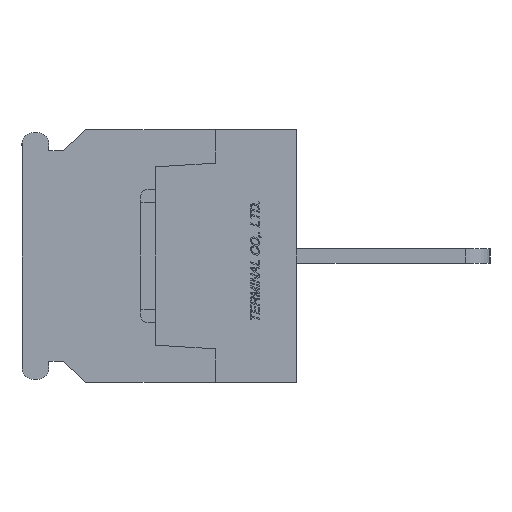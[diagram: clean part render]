
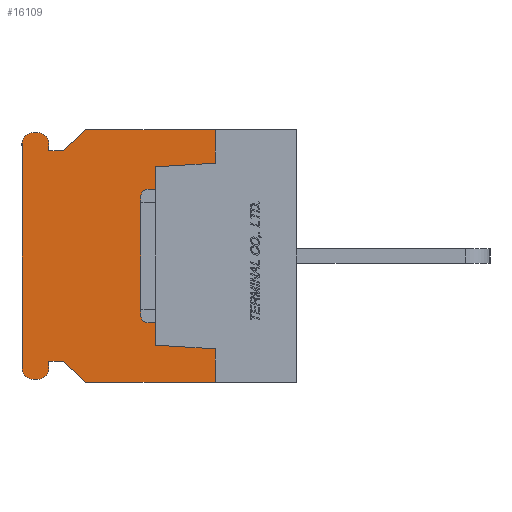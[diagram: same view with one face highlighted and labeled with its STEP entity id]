
A CAD part, left-side view. The second image highlights one B-rep face of the part: STEP entity #16109.
In plain terms, the highlighted planar face has unit normal (-1, 0, 0).
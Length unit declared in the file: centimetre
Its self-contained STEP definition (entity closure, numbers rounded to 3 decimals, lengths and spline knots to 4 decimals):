
#975=CIRCLE('',#27758,0.075);
#976=CIRCLE('',#27759,0.075);
#977=CIRCLE('',#27760,0.075);
#978=CIRCLE('',#27761,0.075);
#1673=VERTEX_POINT('',#22978);
#1674=VERTEX_POINT('',#22980);
#1720=VERTEX_POINT('',#23101);
#1721=VERTEX_POINT('',#23103);
#1897=VERTEX_POINT('',#23672);
#1898=VERTEX_POINT('',#23674);
#1899=VERTEX_POINT('',#23676);
#1900=VERTEX_POINT('',#23678);
#1901=VERTEX_POINT('',#23680);
#1902=VERTEX_POINT('',#23682);
#1903=VERTEX_POINT('',#23684);
#1904=VERTEX_POINT('',#23686);
#1905=VERTEX_POINT('',#23688);
#1906=VERTEX_POINT('',#23690);
#1907=VERTEX_POINT('',#23692);
#1908=VERTEX_POINT('',#23694);
#1909=VERTEX_POINT('',#23696);
#1910=VERTEX_POINT('',#23699);
#1911=VERTEX_POINT('',#23701);
#1912=VERTEX_POINT('',#23703);
#3231=VECTOR('',#18926,1.);
#3289=VECTOR('',#19010,1.);
#3532=VECTOR('',#19465,1.);
#3533=VECTOR('',#19466,1.);
#3534=VECTOR('',#19467,1.);
#3535=VECTOR('',#19468,1.);
#3536=VECTOR('',#19471,1.);
#3537=VECTOR('',#19474,1.);
#3538=VECTOR('',#19477,1.);
#3539=VECTOR('',#19480,1.);
#3540=VECTOR('',#19481,1.);
#3541=VECTOR('',#19482,1.);
#3542=VECTOR('',#19483,1.);
#3543=VECTOR('',#19484,1.);
#3544=VECTOR('',#19485,1.);
#3545=VECTOR('',#19486,1.);
#5023=LINE('',#22979,#3231);
#5081=LINE('',#23102,#3289);
#5324=LINE('',#23671,#3532);
#5325=LINE('',#23673,#3533);
#5326=LINE('',#23675,#3534);
#5327=LINE('',#23677,#3535);
#5328=LINE('',#23681,#3536);
#5329=LINE('',#23685,#3537);
#5330=LINE('',#23689,#3538);
#5331=LINE('',#23693,#3539);
#5332=LINE('',#23695,#3540);
#5333=LINE('',#23697,#3541);
#5334=LINE('',#23698,#3542);
#5335=LINE('',#23700,#3543);
#5336=LINE('',#23702,#3544);
#5337=LINE('',#23704,#3545);
#7187=EDGE_CURVE('',#1673,#1674,#5023,.T.);
#7249=EDGE_CURVE('',#1720,#1721,#5081,.T.);
#7534=EDGE_CURVE('',#1897,#1721,#5324,.T.);
#7535=EDGE_CURVE('',#1898,#1720,#5325,.T.);
#7536=EDGE_CURVE('',#1899,#1898,#5326,.T.);
#7537=EDGE_CURVE('',#1900,#1899,#5327,.T.);
#7538=EDGE_CURVE('',#1901,#1900,#975,.T.);
#7539=EDGE_CURVE('',#1902,#1901,#5328,.T.);
#7540=EDGE_CURVE('',#1903,#1902,#976,.T.);
#7541=EDGE_CURVE('',#1904,#1903,#5329,.T.);
#7542=EDGE_CURVE('',#1905,#1904,#977,.T.);
#7543=EDGE_CURVE('',#1906,#1905,#5330,.T.);
#7544=EDGE_CURVE('',#1907,#1906,#978,.T.);
#7545=EDGE_CURVE('',#1908,#1907,#5331,.T.);
#7546=EDGE_CURVE('',#1909,#1908,#5332,.T.);
#7547=EDGE_CURVE('',#1674,#1909,#5333,.T.);
#7548=EDGE_CURVE('',#1673,#1910,#5334,.T.);
#7549=EDGE_CURVE('',#1910,#1911,#5335,.T.);
#7550=EDGE_CURVE('',#1911,#1912,#5336,.T.);
#7551=EDGE_CURVE('',#1912,#1897,#5337,.T.);
#11206=ORIENTED_EDGE('',*,*,#7534,.T.);
#11207=ORIENTED_EDGE('',*,*,#7249,.F.);
#11208=ORIENTED_EDGE('',*,*,#7535,.F.);
#11209=ORIENTED_EDGE('',*,*,#7536,.F.);
#11210=ORIENTED_EDGE('',*,*,#7537,.F.);
#11211=ORIENTED_EDGE('',*,*,#7538,.F.);
#11212=ORIENTED_EDGE('',*,*,#7539,.F.);
#11213=ORIENTED_EDGE('',*,*,#7540,.F.);
#11214=ORIENTED_EDGE('',*,*,#7541,.F.);
#11215=ORIENTED_EDGE('',*,*,#7542,.F.);
#11216=ORIENTED_EDGE('',*,*,#7543,.F.);
#11217=ORIENTED_EDGE('',*,*,#7544,.F.);
#11218=ORIENTED_EDGE('',*,*,#7545,.F.);
#11219=ORIENTED_EDGE('',*,*,#7546,.F.);
#11220=ORIENTED_EDGE('',*,*,#7547,.F.);
#11221=ORIENTED_EDGE('',*,*,#7187,.F.);
#11222=ORIENTED_EDGE('',*,*,#7548,.T.);
#11223=ORIENTED_EDGE('',*,*,#7549,.T.);
#11224=ORIENTED_EDGE('',*,*,#7550,.T.);
#11225=ORIENTED_EDGE('',*,*,#7551,.T.);
#14108=EDGE_LOOP('',(#11206,#11207,#11208,#11209,#11210,#11211,#11212,#11213,
#11214,#11215,#11216,#11217,#11218,#11219,#11220,#11221,#11222,#11223,#11224,
#11225));
#15152=FACE_BOUND('',#14108,.T.);
#16109=ADVANCED_FACE('',(#15152),#16906,.F.);
#16906=PLANE('',#27757);
#18926=DIRECTION('',(0.,1.,0.));
#19010=DIRECTION('',(0.,-1.,0.));
#19464=DIRECTION('',(1.,0.,0.));
#19465=DIRECTION('',(0.,0.,1.));
#19466=DIRECTION('',(0.,-0.731,0.682));
#19467=DIRECTION('',(0.,-1.,0.));
#19468=DIRECTION('',(0.,0.,-1.));
#19469=DIRECTION('',(1.,0.,0.));
#19470=DIRECTION('',(0.,0.,-0.075));
#19471=DIRECTION('',(0.,-1.,0.));
#19472=DIRECTION('',(1.,0.,0.));
#19473=DIRECTION('',(0.,0.,-0.075));
#19474=DIRECTION('',(0.,0.,1.));
#19475=DIRECTION('',(1.,0.,0.));
#19476=DIRECTION('',(0.,0.,-0.075));
#19477=DIRECTION('',(0.,1.,0.));
#19478=DIRECTION('',(1.,0.,0.));
#19479=DIRECTION('',(0.,0.,-0.075));
#19480=DIRECTION('',(0.,0.,-1.));
#19481=DIRECTION('',(0.,1.,0.));
#19482=DIRECTION('',(0.,0.731,0.682));
#19483=DIRECTION('',(0.,0.,1.));
#19484=DIRECTION('',(0.,0.998,0.062));
#19485=DIRECTION('',(0.,0.,1.));
#19486=DIRECTION('',(0.,-0.998,0.062));
#22978=CARTESIAN_POINT('',(-1.,0.55,-0.85));
#22979=CARTESIAN_POINT('',(-1.,0.,-0.85));
#22980=CARTESIAN_POINT('',(-1.,1.42,-0.85));
#23101=CARTESIAN_POINT('',(-1.,1.42,0.85));
#23102=CARTESIAN_POINT('',(-1.,1.42,0.85));
#23103=CARTESIAN_POINT('',(-1.,0.55,0.85));
#23670=CARTESIAN_POINT('',(-1.,0.9383,0.));
#23671=CARTESIAN_POINT('',(-1.,0.55,0.3687));
#23672=CARTESIAN_POINT('',(-1.,0.55,0.625));
#23673=CARTESIAN_POINT('',(-1.,1.57,0.71));
#23674=CARTESIAN_POINT('',(-1.,1.57,0.71));
#23675=CARTESIAN_POINT('',(-1.,1.67,0.71));
#23676=CARTESIAN_POINT('',(-1.,1.67,0.71));
#23677=CARTESIAN_POINT('',(-1.,1.67,0.755));
#23678=CARTESIAN_POINT('',(-1.,1.67,0.755));
#23679=CARTESIAN_POINT('',(-1.,1.745,0.755));
#23680=CARTESIAN_POINT('',(-1.,1.745,0.83));
#23681=CARTESIAN_POINT('',(-1.,1.775,0.83));
#23682=CARTESIAN_POINT('',(-1.,1.775,0.83));
#23683=CARTESIAN_POINT('',(-1.,1.775,0.755));
#23684=CARTESIAN_POINT('',(-1.,1.85,0.755));
#23685=CARTESIAN_POINT('',(-1.,1.85,-0.755));
#23686=CARTESIAN_POINT('',(-1.,1.85,-0.755));
#23687=CARTESIAN_POINT('',(-1.,1.775,-0.755));
#23688=CARTESIAN_POINT('',(-1.,1.775,-0.83));
#23689=CARTESIAN_POINT('',(-1.,1.745,-0.83));
#23690=CARTESIAN_POINT('',(-1.,1.745,-0.83));
#23691=CARTESIAN_POINT('',(-1.,1.745,-0.755));
#23692=CARTESIAN_POINT('',(-1.,1.67,-0.755));
#23693=CARTESIAN_POINT('',(-1.,1.67,-0.71));
#23694=CARTESIAN_POINT('',(-1.,1.67,-0.71));
#23695=CARTESIAN_POINT('',(-1.,1.57,-0.71));
#23696=CARTESIAN_POINT('',(-1.,1.57,-0.71));
#23697=CARTESIAN_POINT('',(-1.,1.42,-0.85));
#23698=CARTESIAN_POINT('',(-1.,0.55,-0.3688));
#23699=CARTESIAN_POINT('',(-1.,0.55,-0.625));
#23700=CARTESIAN_POINT('',(-1.,0.8629,-0.6054));
#23701=CARTESIAN_POINT('',(-1.,0.95,-0.6));
#23702=CARTESIAN_POINT('',(-1.,0.95,0.));
#23703=CARTESIAN_POINT('',(-1.,0.95,0.6));
#23704=CARTESIAN_POINT('',(-1.,0.8629,0.6054));
#27757=AXIS2_PLACEMENT_3D('',#23670,#19464,$);
#27758=AXIS2_PLACEMENT_3D('',#23679,#19469,#19470);
#27759=AXIS2_PLACEMENT_3D('',#23683,#19472,#19473);
#27760=AXIS2_PLACEMENT_3D('',#23687,#19475,#19476);
#27761=AXIS2_PLACEMENT_3D('',#23691,#19478,#19479);
